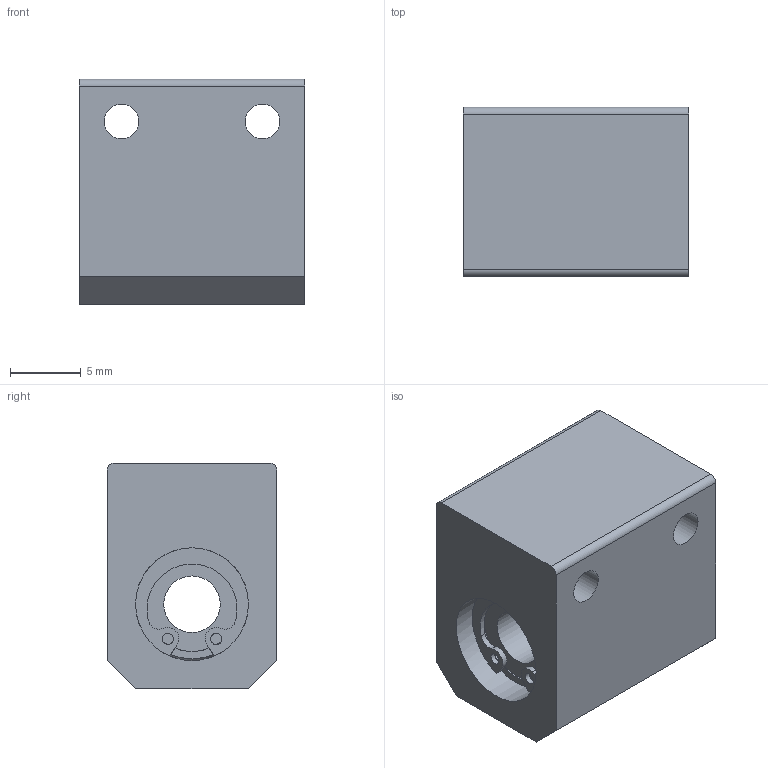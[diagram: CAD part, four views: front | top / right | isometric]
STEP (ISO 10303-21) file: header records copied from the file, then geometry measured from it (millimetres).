
FILE_DESCRIPTION((''),'2;1');
FILE_NAME('D:\製品 (図面)\カタログ用3D\リニアベアリング関連(改)\STEP形式\CH\CH4.stp','2010-01-25T09:31:00',('Tsuchiya'),(''),'Autodesk Inventor 10','Autodesk Inventor 10','');
FILE_SCHEMA(('AUTOMOTIVE_DESIGN { 1 0 10303 214 1 1 1 1 }'));
Length unit declared in the file: millimetre
Products named in the file (1): CH4
Bounding box: 16 x 12 x 16 mm (x, y, z)
Volume: 2540.3 mm3; surface area: 1683.1 mm2
Topology: 1 solids, 1 shells, 53 faces, 155 edges, 98 vertices
Faces by surface type: plane 21, bspline 16, cylinder 14, torus 2
Full cylindrical faces by diameter (mm): 0.8 x2, 4 x1, 6.7 x2, 8 x2
Entity records: 1744 total; most frequent: CARTESIAN_POINT 460, DIRECTION 268, ORIENTED_EDGE 244, EDGE_CURVE 122, AXIS2_PLACEMENT_3D 108, VERTEX_POINT 82, EDGE_LOOP 82, CIRCLE 70
